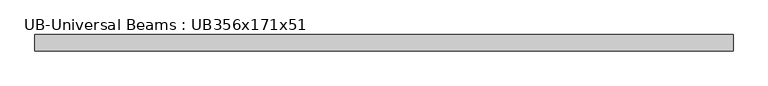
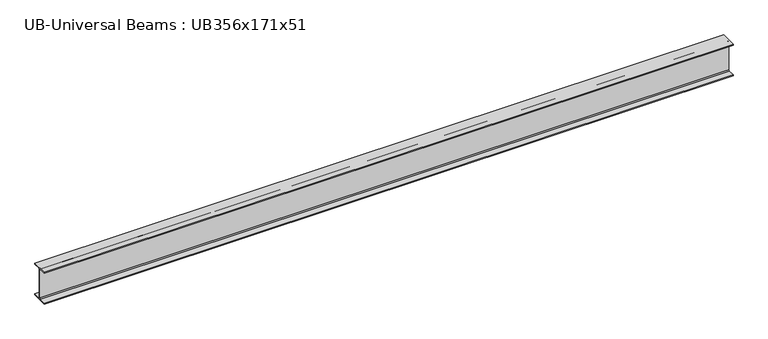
"""IFC4 building model written with IfcOpenShell, lengths in millimetres: beam geometry, UB-Universal Beams : UB356x171x51."""

from ifc_helpers import new_model, si_unit, point, frame, frame_2d, origin, place, context, project, spatial, polyline, circle_curve, trimmed, segment, composite_curve, outline, extrude, source, transform, mapped, element, save


def ub_universal_beams_ub356x171x51_3ee91673(model_context):
    return source(origin(), model_context, "Body", "SweptSolid", [
        extrude(outline(composite_curve([segment(polyline([(85.75, -166.0), (85.75, -177.5), (-85.75, -177.5), (-85.75, -166.0), (-13.9, -166.0)]), True, "CONTINUOUS"), segment(trimmed(circle_curve(frame_2d((-13.9, -155.8)), 10.2), [point((-13.9, -166.0))], [point((-3.7, -155.8))], True, "CARTESIAN"), True, "CONTINUOUS"), segment(polyline([(-3.7, -155.8), (-3.7, 155.8)]), True, "CONTINUOUS"), segment(trimmed(circle_curve(frame_2d((-13.9, 155.8)), 10.2), [point((-3.7, 155.8))], [point((-13.9, 166.0))], True, "CARTESIAN"), True, "CONTINUOUS"), segment(polyline([(-13.9, 166.0), (-85.75, 166.0), (-85.75, 177.5), (85.75, 177.5), (85.75, 166.0), (13.9, 166.0)]), True, "CONTINUOUS"), segment(trimmed(circle_curve(frame_2d((13.9, 155.8)), 10.2), [point((13.9, 166.0))], [point((3.7, 155.8))], True, "CARTESIAN"), True, "CONTINUOUS"), segment(polyline([(3.7, 155.8), (3.7, -155.8)]), True, "CONTINUOUS"), segment(trimmed(circle_curve(frame_2d((13.9, -155.8)), 10.2), [point((3.7, -155.8))], [point((13.9, -166.0))], True, "CARTESIAN"), True, "CONTINUOUS"), segment(polyline([(13.9, -166.0), (85.75, -166.0)]), True, "CONTINUOUS")], self_intersect=False)), frame((-3644.6, 0.0, 0.0), z_axis=(1.0, 0.0, 0.0), x_axis=(0.0, 1.0, 0.0)), (0.0, 0.0, 1.0), 7289.2),
    ])


if __name__ == "__main__":
    model = new_model("IFC4")
    model_context = context("Model", 3, world=origin())
    ifc_project = project(units=[si_unit("LENGTHUNIT", "METRE", prefix="MILLI")], contexts=[model_context])
    site = spatial("IfcSite", under=ifc_project)
    building = spatial("IfcBuilding", under=site)
    placement = place(None, origin())
    ub_universal_beams_ub356x171x51_shape = ub_universal_beams_ub356x171x51_3ee91673(model_context)
    element("IfcBeam", 1, ObjectType="UB-Universal Beams : UB356x171x51", at=placement, inside=building, context=model_context, shape_type="MappedRepresentation", body=[
        mapped(ub_universal_beams_ub356x171x51_shape, transform((0.0, 0.0, 0.0), x_axis=(1.0, 0.0, 0.0), y_axis=(0.0, 1.0, 0.0), z_axis=(0.0, 0.0, 1.0))),
    ])
    save(model, "model.ifc")
